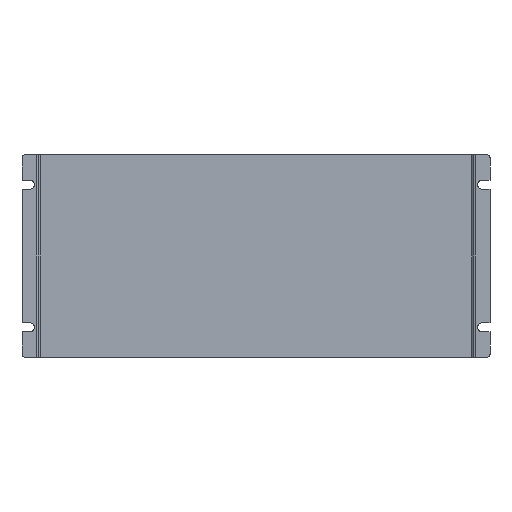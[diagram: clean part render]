
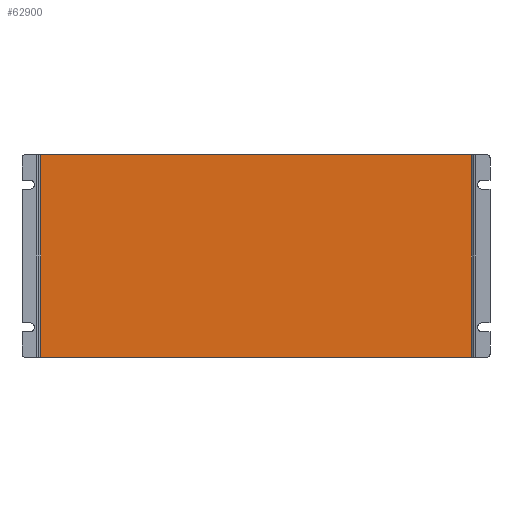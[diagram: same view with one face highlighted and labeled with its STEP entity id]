
A CAD part, front view. The second image highlights one B-rep face of the part: STEP entity #62900.
In plain terms, the highlighted planar face has unit normal (0, -1, 0).
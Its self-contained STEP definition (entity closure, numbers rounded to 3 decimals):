
#1630 = LINE ( 'NONE', #10776, #53835 ) ;
#2654 = DIRECTION ( 'NONE',  ( 0., 0., 1. ) ) ;
#8618 = DIRECTION ( 'NONE',  ( 0., 1., 0. ) ) ;
#10674 = DIRECTION ( 'NONE',  ( 1., 0., 0. ) ) ;
#10776 = CARTESIAN_POINT ( 'NONE',  ( 136., 1.5, 64. ) ) ;
#11007 = CARTESIAN_POINT ( 'NONE',  ( -136., 1.5, 64. ) ) ;
#12417 = AXIS2_PLACEMENT_3D ( 'NONE', #78201, #8618, #95923 ) ;
#12478 = DIRECTION ( 'NONE',  ( 1., 0., 0. ) ) ;
#31509 = CARTESIAN_POINT ( 'NONE',  ( -136., 1.5, 64. ) ) ;
#31981 = EDGE_CURVE ( 'NONE', #34528, #37653, #71126, .T. ) ;
#33992 = VECTOR ( 'NONE', #10674, 1000. ) ;
#34528 = VERTEX_POINT ( 'NONE', #40757 ) ;
#34563 = EDGE_CURVE ( 'NONE', #37653, #64401, #1630, .T. ) ;
#36989 = CARTESIAN_POINT ( 'NONE',  ( 136., 1.5, 64. ) ) ;
#37653 = VERTEX_POINT ( 'NONE', #51045 ) ;
#40757 = CARTESIAN_POINT ( 'NONE',  ( -136., 1.5, -64. ) ) ;
#45071 = VECTOR ( 'NONE', #12478, 1000. ) ;
#49778 = CARTESIAN_POINT ( 'NONE',  ( -136., 1.5, -64. ) ) ;
#50285 = EDGE_CURVE ( 'NONE', #34528, #94048, #58252, .T. ) ;
#51045 = CARTESIAN_POINT ( 'NONE',  ( 136., 1.5, -64. ) ) ;
#51565 = LINE ( 'NONE', #11007, #45071 ) ;
#52206 = ORIENTED_EDGE ( 'NONE', *, *, #34563, .T. ) ;
#53835 = VECTOR ( 'NONE', #2654, 1000. ) ;
#54947 = ORIENTED_EDGE ( 'NONE', *, *, #31981, .T. ) ;
#58252 = LINE ( 'NONE', #72015, #59179 ) ;
#59179 = VECTOR ( 'NONE', #87249, 1000. ) ;
#62900 = ADVANCED_FACE ( 'NONE', ( #78713 ), #95429, .F. ) ;
#63517 = EDGE_CURVE ( 'NONE', #94048, #64401, #51565, .T. ) ;
#63824 = ORIENTED_EDGE ( 'NONE', *, *, #50285, .F. ) ;
#64401 = VERTEX_POINT ( 'NONE', #36989 ) ;
#71126 = LINE ( 'NONE', #49778, #33992 ) ;
#72015 = CARTESIAN_POINT ( 'NONE',  ( -136., 1.5, 64. ) ) ;
#78201 = CARTESIAN_POINT ( 'NONE',  ( -136., 1.5, 64. ) ) ;
#78713 = FACE_OUTER_BOUND ( 'NONE', #96990, .T. ) ;
#83686 = ORIENTED_EDGE ( 'NONE', *, *, #63517, .F. ) ;
#87249 = DIRECTION ( 'NONE',  ( 0., 0., 1. ) ) ;
#94048 = VERTEX_POINT ( 'NONE', #31509 ) ;
#95429 = PLANE ( 'NONE',  #12417 ) ;
#95923 = DIRECTION ( 'NONE',  ( 0., 0., -1. ) ) ;
#96990 = EDGE_LOOP ( 'NONE', ( #52206, #83686, #63824, #54947 ) ) ;
